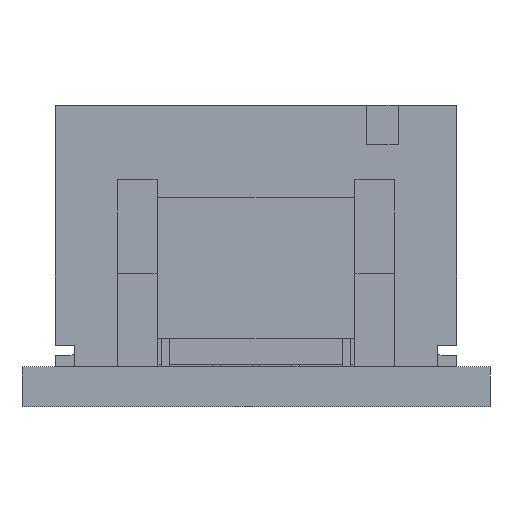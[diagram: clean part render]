
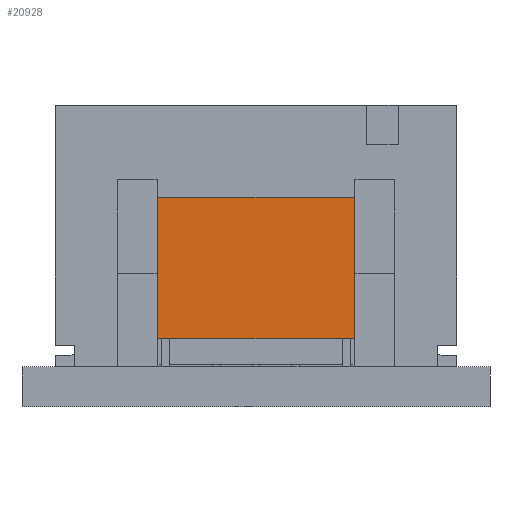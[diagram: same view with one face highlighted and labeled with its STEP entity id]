
A CAD part, front view. The second image highlights one B-rep face of the part: STEP entity #20928.
In plain terms, the highlighted planar face has unit normal (0, -1, 0).
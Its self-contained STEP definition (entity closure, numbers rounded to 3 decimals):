
#2295 = DIRECTION ( 'NONE',  ( 0., 0., -1. ) ) ;
#2301 = EDGE_LOOP ( 'NONE', ( #29773, #26279, #9007, #7553 ) ) ;
#2383 = LINE ( 'NONE', #9914, #28188 ) ;
#2791 = VERTEX_POINT ( 'NONE', #23679 ) ;
#4752 = CARTESIAN_POINT ( 'NONE',  ( 3.469, 4.316, 5.336 ) ) ;
#6039 = CARTESIAN_POINT ( 'NONE',  ( 3.469, 4.316, 1.736 ) ) ;
#7553 = ORIENTED_EDGE ( 'NONE', *, *, #22416, .F. ) ;
#9007 = ORIENTED_EDGE ( 'NONE', *, *, #18542, .F. ) ;
#9914 = CARTESIAN_POINT ( 'NONE',  ( 3.469, 4.316, 5.336 ) ) ;
#11085 = LINE ( 'NONE', #6039, #28360 ) ;
#13060 = CARTESIAN_POINT ( 'NONE',  ( 8.469, 4.316, 5.336 ) ) ;
#13355 = CARTESIAN_POINT ( 'NONE',  ( 3.469, 4.316, 5.336 ) ) ;
#15054 = AXIS2_PLACEMENT_3D ( 'NONE', #13355, #29390, #26967 ) ;
#17279 = VERTEX_POINT ( 'NONE', #30262 ) ;
#17676 = VECTOR ( 'NONE', #18629, 1000. ) ;
#18542 = EDGE_CURVE ( 'NONE', #2791, #24904, #23555, .T. ) ;
#18629 = DIRECTION ( 'NONE',  ( 0., 0., -1. ) ) ;
#18793 = EDGE_CURVE ( 'NONE', #26475, #24904, #11085, .T. ) ;
#20449 = EDGE_CURVE ( 'NONE', #17279, #26475, #34354, .T. ) ;
#20928 = ADVANCED_FACE ( 'NONE', ( #21543 ), #28876, .F. ) ;
#21543 = FACE_OUTER_BOUND ( 'NONE', #2301, .T. ) ;
#22416 = EDGE_CURVE ( 'NONE', #17279, #2791, #2383, .T. ) ;
#23555 = LINE ( 'NONE', #13060, #17676 ) ;
#23679 = CARTESIAN_POINT ( 'NONE',  ( 8.469, 4.316, 5.336 ) ) ;
#24904 = VERTEX_POINT ( 'NONE', #28184 ) ;
#26148 = DIRECTION ( 'NONE',  ( 1., 0., 0. ) ) ;
#26279 = ORIENTED_EDGE ( 'NONE', *, *, #18793, .T. ) ;
#26475 = VERTEX_POINT ( 'NONE', #29766 ) ;
#26967 = DIRECTION ( 'NONE',  ( -1., 0., 0. ) ) ;
#27163 = DIRECTION ( 'NONE',  ( 1., 0., 0. ) ) ;
#28184 = CARTESIAN_POINT ( 'NONE',  ( 8.469, 4.316, 1.736 ) ) ;
#28188 = VECTOR ( 'NONE', #26148, 1000. ) ;
#28360 = VECTOR ( 'NONE', #27163, 1000. ) ;
#28404 = VECTOR ( 'NONE', #2295, 1000. ) ;
#28876 = PLANE ( 'NONE',  #15054 ) ;
#29390 = DIRECTION ( 'NONE',  ( 0., 1., 0. ) ) ;
#29766 = CARTESIAN_POINT ( 'NONE',  ( 3.469, 4.316, 1.736 ) ) ;
#29773 = ORIENTED_EDGE ( 'NONE', *, *, #20449, .T. ) ;
#30262 = CARTESIAN_POINT ( 'NONE',  ( 3.469, 4.316, 5.336 ) ) ;
#34354 = LINE ( 'NONE', #4752, #28404 ) ;
